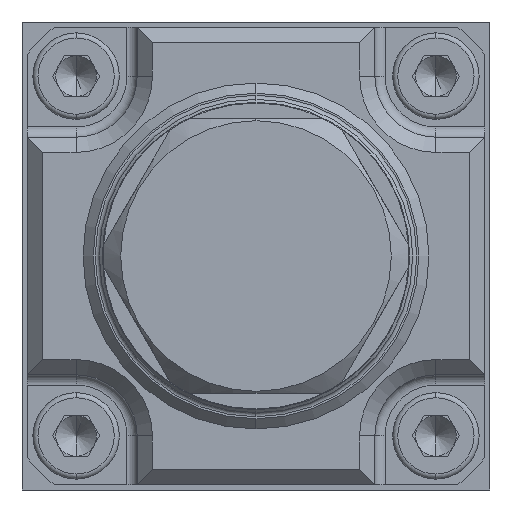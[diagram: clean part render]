
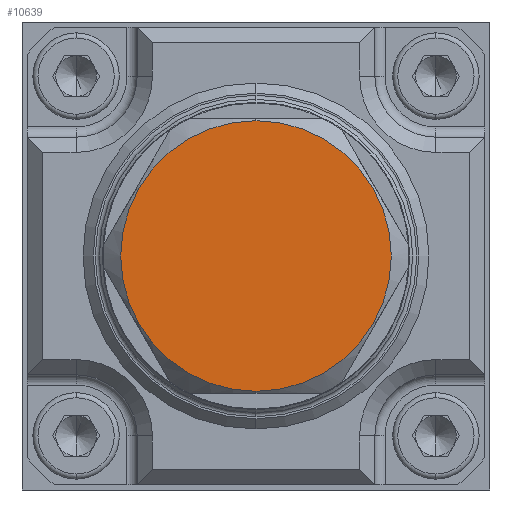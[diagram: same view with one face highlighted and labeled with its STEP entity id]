
A CAD part, left-side view. The second image highlights one B-rep face of the part: STEP entity #10639.
In plain terms, the highlighted planar face has unit normal (-1, 0, 0).
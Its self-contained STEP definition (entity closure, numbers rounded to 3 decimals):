
#2552 = ORIENTED_EDGE ( 'NONE', *, *, #23348, .F. ) ;
#4069 = AXIS2_PLACEMENT_3D ( 'NONE', #6898, #17742, #9986 ) ;
#5012 = EDGE_LOOP ( 'NONE', ( #11564, #2552 ) ) ;
#5068 = VERTEX_POINT ( 'NONE', #5175 ) ;
#5175 = CARTESIAN_POINT ( 'NONE',  ( -100.8, 0., -13.3 ) ) ;
#5681 = AXIS2_PLACEMENT_3D ( 'NONE', #25033, #30320, #17266 ) ;
#6408 = DIRECTION ( 'NONE',  ( 0., 0., -1. ) ) ;
#6529 = CARTESIAN_POINT ( 'NONE',  ( -100.8, 0., 0. ) ) ;
#6898 = CARTESIAN_POINT ( 'NONE',  ( -100.8, 0., 0. ) ) ;
#6963 = PLANE ( 'NONE',  #5681 ) ;
#8489 = EDGE_CURVE ( 'NONE', #5068, #10355, #27359, .T. ) ;
#9986 = DIRECTION ( 'NONE',  ( 0., 0., -1. ) ) ;
#10355 = VERTEX_POINT ( 'NONE', #24229 ) ;
#10639 = ADVANCED_FACE ( 'NONE', ( #16986 ), #6963, .T. ) ;
#11528 = DIRECTION ( 'NONE',  ( 1., 0., 0. ) ) ;
#11564 = ORIENTED_EDGE ( 'NONE', *, *, #8489, .F. ) ;
#16554 = AXIS2_PLACEMENT_3D ( 'NONE', #6529, #11528, #6408 ) ;
#16986 = FACE_OUTER_BOUND ( 'NONE', #5012, .T. ) ;
#17266 = DIRECTION ( 'NONE',  ( 0., 0., 1. ) ) ;
#17742 = DIRECTION ( 'NONE',  ( 1., 0., 0. ) ) ;
#23348 = EDGE_CURVE ( 'NONE', #10355, #5068, #24811, .T. ) ;
#24229 = CARTESIAN_POINT ( 'NONE',  ( -100.8, 0., 13.3 ) ) ;
#24811 = CIRCLE ( 'NONE', #16554, 13.3 ) ;
#25033 = CARTESIAN_POINT ( 'NONE',  ( -100.8, 13.3, 0. ) ) ;
#27359 = CIRCLE ( 'NONE', #4069, 13.3 ) ;
#30320 = DIRECTION ( 'NONE',  ( -1., 0., 0. ) ) ;
